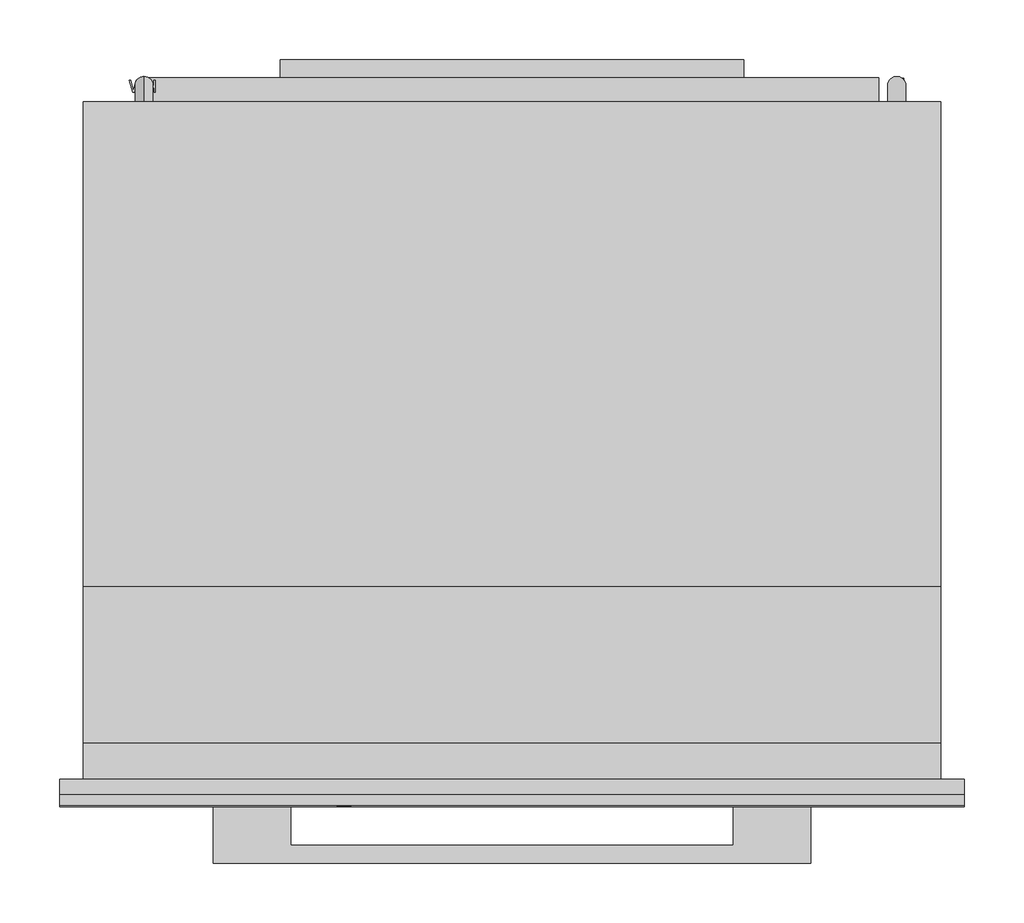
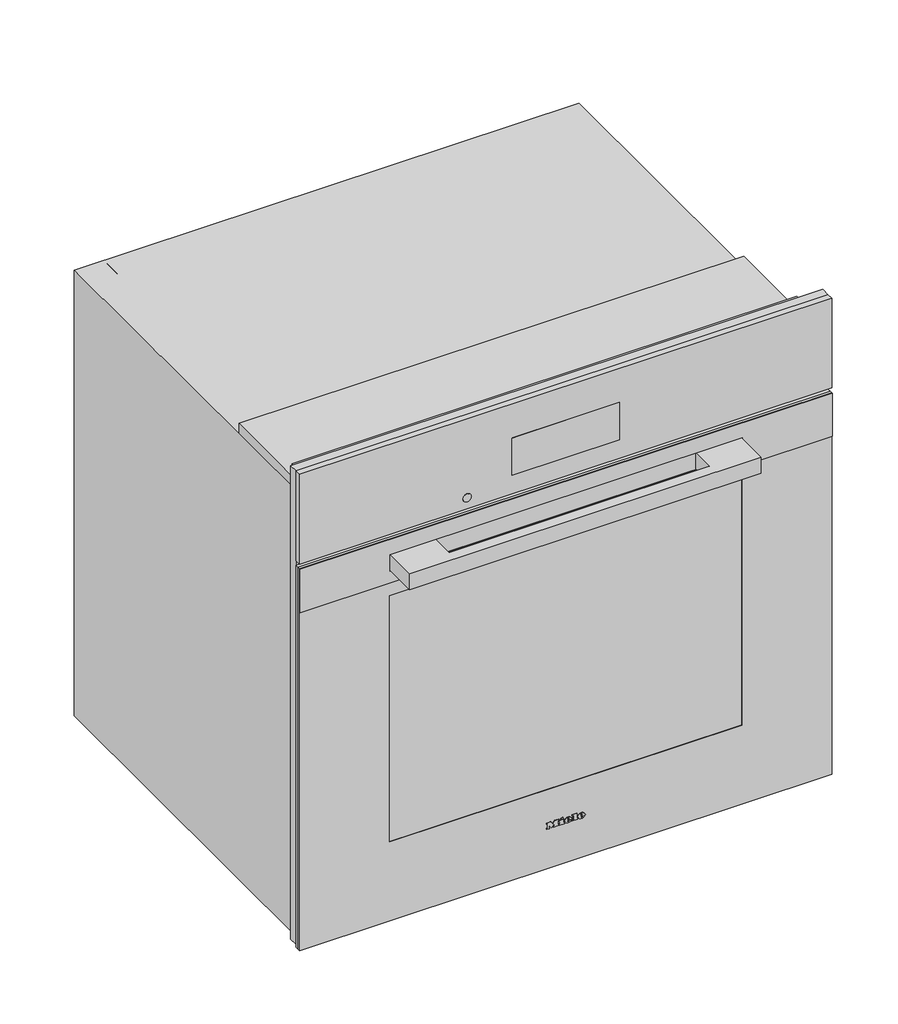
# Not in any storey: 1 proxy.
"""IFC4 building model written with IfcOpenShell, lengths in millimetres."""

from ifc_helpers import new_model, si_unit, origin, place, context, project, spatial, transform, mapped, element, save
from components import specialty_equipment_fb274056

model = new_model("IFC4")

# Units and contexts
model_context = context("Model", 3, world=origin())
ifc_project = project(units=[si_unit("LENGTHUNIT", "METRE", prefix="MILLI")], contexts=[model_context])

# Site, building
site = spatial("IfcSite", under=ifc_project)
building = spatial("IfcBuilding", under=site)

# Proxy
placement = place(None, origin())
specialty_equipment_shape = specialty_equipment_fb274056(model_context)
element("IfcBuildingElementProxy", 1, Name="11788890_BR_H7880BP_EDST-CLST : 22788045_BR_11788890_H7880BP_EDST-CLST", ObjectType="11788890_BR_H7880BP_EDST-CLST : 22788045_BR_11788890_H7880BP_EDST-CLST", at=placement, inside=building, context=model_context, shape_type="MappedRepresentation", body=[
    mapped(specialty_equipment_shape, transform((0.0, 0.0, 0.0), x_axis=(1.0, 0.0, 0.0), y_axis=(0.0, 1.0, 0.0), z_axis=(0.0, 0.0, 1.0))),
])

save(model, "model.ifc")
